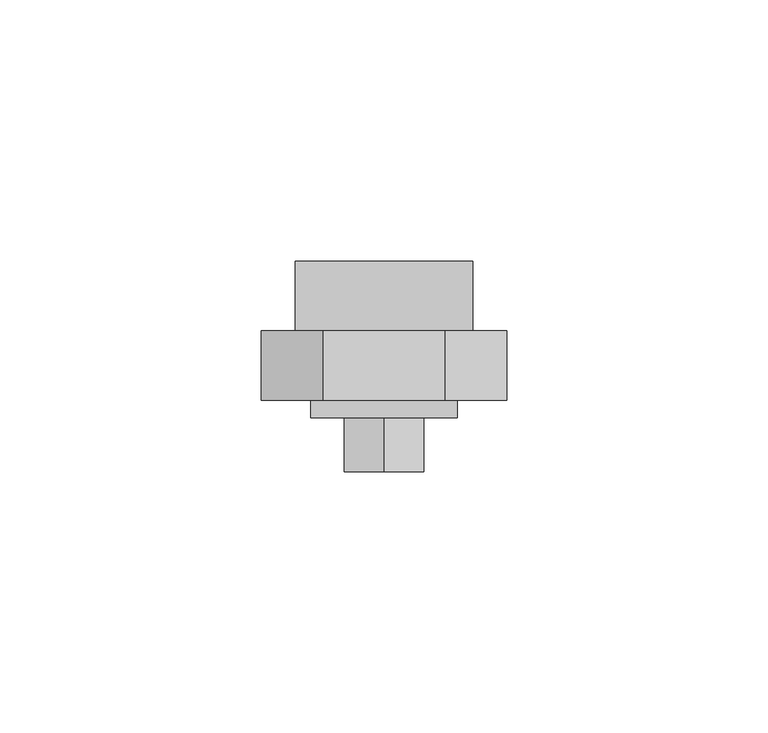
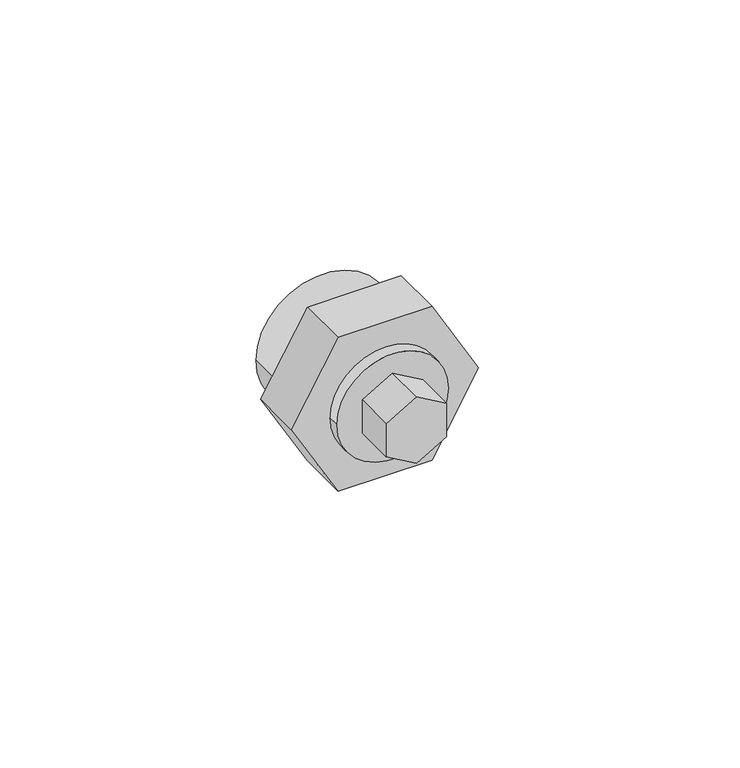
"""IFC4 building model written with IfcOpenShell, lengths in millimetres: pipe fitting geometry, EGB_VASEN_ PPR_Enlace desmontable rosca hembra WXR104 : Enlace desmontable rosca hembra WXR104."""

from ifc_helpers import new_model, si_unit, point, frame, origin, origin_2d, place, context, project, spatial, polyline, circle_curve, trimmed, segment, composite_curve, outline, extrude, source, transform, mapped, element, save


def pipe_fitting_eace9d17(model_context):
    return source(origin(), model_context, "Body", "SweptSolid", [
        extrude(outline(polyline([(-4.3994091, -7.62), (-8.7988181, 0.0), (-4.3994091, 7.62), (4.3994091, 7.62), (8.7988181, 0.0), (4.3994091, -7.62), (-4.3994091, -7.62)])), frame((0.0, -26.42125, 0.0), z_axis=(0.0, 1.0, 0.0), x_axis=(0.0, 0.0, 1.0)), (0.0, 0.0, 1.0), 10.3333333),
        extrude(outline(polyline([(0.0, 23.555891), (20.4, 11.7779455), (20.4, -11.7779455), (0.0, -23.555891), (-20.4, -11.7779455), (-20.4, 11.7779455), (0.0, 23.555891)])), frame((0.0, -12.7204167, 0.0), z_axis=(0.0, 1.0, 0.0), x_axis=(0.0, 0.0, 1.0)), (0.0, 0.0, 1.0), 13.3333333),
        extrude(outline(composite_curve([segment(trimmed(circle_curve(origin_2d(), 14.01), [point((0.0, -14.01))], [point((0.0, 14.01))], False, "CARTESIAN"), True, "CONTINUOUS"), segment(trimmed(circle_curve(origin_2d(), 14.01), [point((0.0, 14.01))], [point((0.0, -14.01))], False, "CARTESIAN"), True, "CONTINUOUS")], self_intersect=False)), frame((0.0, -16.0879167, 0.0), z_axis=(0.0, 1.0, 0.0), x_axis=(0.0, 0.0, 1.0)), (0.0, 0.0, 1.0), 3.3675),
        extrude(outline(composite_curve([segment(trimmed(circle_curve(origin_2d(), 17.0), [point((0.0, -17.0))], [point((0.0, 17.0))], False, "CARTESIAN"), True, "CONTINUOUS"), segment(trimmed(circle_curve(origin_2d(), 17.0), [point((0.0, 17.0))], [point((0.0, -17.0))], False, "CARTESIAN"), True, "CONTINUOUS")], self_intersect=False), holes=[composite_curve([segment(trimmed(circle_curve(origin_2d(), 12.5), [point((0.0, -12.5))], [point((0.0, 12.5))], True, "CARTESIAN"), True, "CONTINUOUS"), segment(trimmed(circle_curve(origin_2d(), 12.5), [point((0.0, 12.5))], [point((0.0, -12.5))], True, "CARTESIAN"), True, "CONTINUOUS")], self_intersect=False)]), frame((0.0, 0.6129167, 0.0), z_axis=(0.0, 1.0, 0.0), x_axis=(0.0, 0.0, 1.0)), (0.0, 0.0, 1.0), 13.3333333),
    ])


if __name__ == "__main__":
    model = new_model("IFC4")
    model_context = context("Model", 3, world=origin())
    ifc_project = project(units=[si_unit("LENGTHUNIT", "METRE", prefix="MILLI")], contexts=[model_context])
    site = spatial("IfcSite", under=ifc_project)
    building = spatial("IfcBuilding", under=site)
    placement = place(None, origin())
    pipe_fitting_shape = pipe_fitting_eace9d17(model_context)
    element("IfcPipeFitting", 1, ObjectType="EGB_VASEN_ PPR_Enlace desmontable rosca hembra WXR104 : Enlace desmontable rosca hembra WXR104", at=placement, inside=building, context=model_context, shape_type="MappedRepresentation", body=[
        mapped(pipe_fitting_shape, transform((0.0, 0.0, 0.0), x_axis=(1.0, 0.0, 0.0), y_axis=(0.0, 1.0, 0.0), z_axis=(0.0, 0.0, 1.0))),
    ])
    save(model, "model.ifc")
